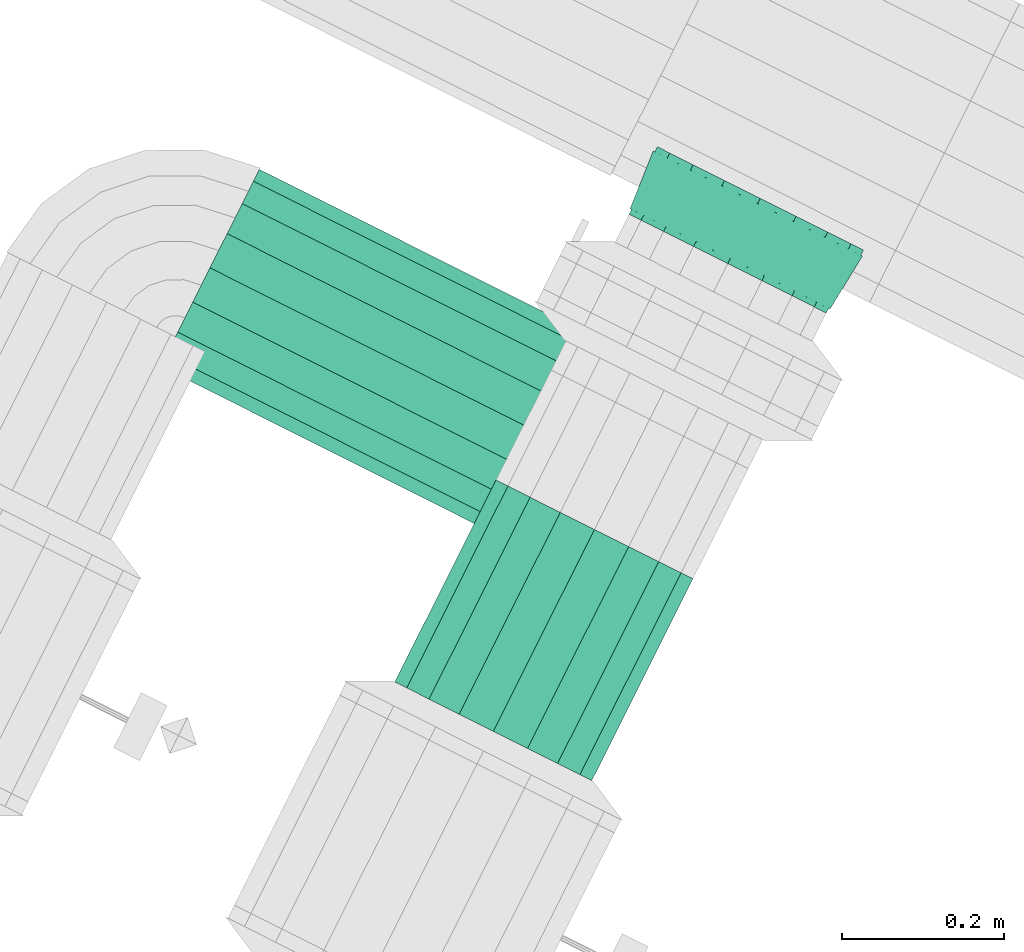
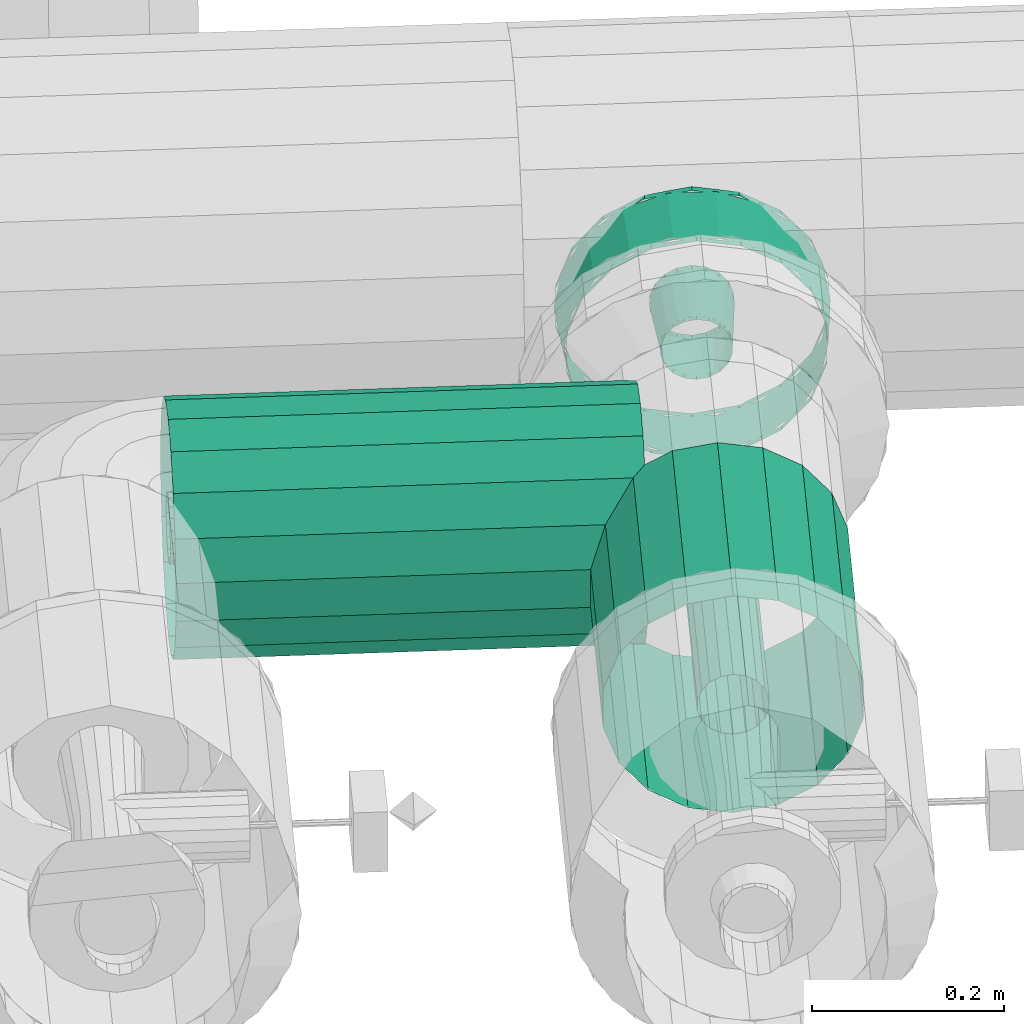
# One storey, part 43 of 152: 2 flow segments, 1 flow fitting.
"""IFC2X3 building model written with IfcOpenShell, lengths in metres."""

from ifc_helpers import new_model, si_unit, derived_unit, direction, frame, origin, place, context, subcontext, project, spatial, face_set, surface_model, source, transform, mapped, material, type_object, type_shapes, element, save


model = new_model("IFC2X3")

# Units and contexts
model_context = context("Model", 3, precision=5.2338327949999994e-05, world=origin(), true_north=direction((0.0, 1.0)))
body_context = subcontext(model_context, "Body", "Model", "MODEL_VIEW")
ifc_project = project(units=[si_unit("LENGTHUNIT", "METRE"), si_unit("AREAUNIT", "SQUARE_METRE"), si_unit("VOLUMEUNIT", "CUBIC_METRE"), si_unit("MASSUNIT", "GRAM", prefix="KILO"), si_unit("PLANEANGLEUNIT", "RADIAN"), derived_unit("THERMALTRANSMITTANCEUNIT", [(si_unit("MASSUNIT", "GRAM", prefix="KILO"), 1), (si_unit("THERMODYNAMICTEMPERATUREUNIT", "KELVIN"), -1), (si_unit("TIMEUNIT", "SECOND"), -3)])], contexts=[model_context])

# Site, building, storey
site_placement = place(None, frame((0.0, 0.0, 0.0), z_axis=(0.0, 0.0, 1.0), x_axis=(0.8939966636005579, -0.4480736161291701, 0.0)))
site = spatial("IfcSite", under=ifc_project, at=site_placement, Name="Default", CompositionType="ELEMENT")
building_placement = place(site_placement, origin())
building = spatial("IfcBuilding", under=site, at=building_placement, CompositionType="ELEMENT")
storey_placement = place(building_placement, frame((0.0, 0.0, 2.7499999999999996)))
storey = spatial("IfcBuildingStorey", under=building, at=storey_placement, Name="1. Obergeschoss", CompositionType="ELEMENT", Elevation=2.7499999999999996)

# Flow fitting
ifc_material = material(Name="IfcSurfaceStyle #1741")
distribution_element_type_1 = type_object("IfcDistributionElementType", Name="Übergangsstück 253935:Übergangsstück 253935", material=ifc_material)
shared_shape_1 = source(origin(), body_context, "Body", "SurfaceModel", [
    surface_model("IfcFaceBasedSurfaceModel", [(15.057242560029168, 7.860208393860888, 5.591190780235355), (15.072445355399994, 7.860208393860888, 5.593871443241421), (15.072445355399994, 7.853058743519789, 5.593871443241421), (15.057242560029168, 7.853058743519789, 5.5911907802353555), (15.085814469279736, 7.860208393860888, 5.601590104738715), (15.085814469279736, 7.853058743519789, 5.601590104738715), (15.095737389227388, 7.860208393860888, 5.613415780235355), (15.095737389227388, 7.853058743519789, 5.613415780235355), (15.101017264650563, 7.860208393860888, 5.6279221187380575), (15.101017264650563, 7.853058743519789, 5.6279221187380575), (15.101017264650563, 7.860208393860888, 5.643359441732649), (15.101017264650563, 7.853058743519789, 5.643359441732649), (15.095737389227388, 7.860208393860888, 5.657865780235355), (15.095737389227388, 7.853058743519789, 5.657865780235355), (15.085814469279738, 7.860208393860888, 5.669691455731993), (15.085814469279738, 7.853058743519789, 5.669691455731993), (15.072445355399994, 7.860208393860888, 5.677410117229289), (15.072445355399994, 7.853058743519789, 5.677410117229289), (15.057242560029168, 7.860208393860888, 5.680090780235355), (15.057242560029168, 7.853058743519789, 5.680090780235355), (15.042039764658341, 7.860208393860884, 5.677410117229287), (15.042039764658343, 7.853058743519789, 5.677410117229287), (15.028670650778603, 7.860208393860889, 5.669691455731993), (15.028670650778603, 7.853058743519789, 5.669691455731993), (15.018747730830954, 7.860208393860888, 5.657865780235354), (15.018747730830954, 7.853058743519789, 5.657865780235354), (15.013467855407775, 7.860208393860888, 5.643359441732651), (15.013467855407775, 7.853058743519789, 5.643359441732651), (15.013467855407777, 7.860208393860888, 5.627922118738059), (15.013467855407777, 7.853058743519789, 5.627922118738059), (15.018747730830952, 7.860208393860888, 5.613415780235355), (15.018747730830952, 7.853058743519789, 5.613415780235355), (15.028670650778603, 7.860208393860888, 5.601590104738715), (15.028670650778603, 7.853058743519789, 5.601590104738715), (15.042039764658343, 7.860208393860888, 5.5938714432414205), (15.042039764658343, 7.853058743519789, 5.5938714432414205), (15.057242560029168, 7.860208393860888, 5.491190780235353), (15.106647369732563, 7.860208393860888, 5.499902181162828), (15.106647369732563, 7.853058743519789, 5.499902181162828), (15.057242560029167, 7.853058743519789, 5.491190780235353), (15.150093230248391, 7.860208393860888, 5.524985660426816), (15.150093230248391, 7.853058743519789, 5.524985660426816), (15.182339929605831, 7.860208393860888, 5.563415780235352), (15.182339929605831, 7.853058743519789, 5.563415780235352), (15.199498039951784, 7.860208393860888, 5.610557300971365), (15.199498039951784, 7.853058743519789, 5.610557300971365), (15.199498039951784, 7.860208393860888, 5.660724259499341), (15.199498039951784, 7.853058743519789, 5.660724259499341), (15.182339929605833, 7.860208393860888, 5.707865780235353), (15.182339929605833, 7.853058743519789, 5.707865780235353), (15.150093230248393, 7.860208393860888, 5.74629590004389), (15.150093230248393, 7.853058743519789, 5.74629590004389), (15.106647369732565, 7.860208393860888, 5.771379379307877), (15.106647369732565, 7.853058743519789, 5.771379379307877), (15.057242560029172, 7.860208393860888, 5.780090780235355), (15.057242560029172, 7.853058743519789, 5.780090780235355), (15.00783775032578, 7.860208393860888, 5.77137937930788), (15.00783775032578, 7.853058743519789, 5.77137937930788), (14.96439188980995, 7.860208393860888, 5.746295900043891), (14.96439188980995, 7.853058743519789, 5.746295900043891), (14.932145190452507, 7.860208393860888, 5.707865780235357), (14.932145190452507, 7.853058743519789, 5.707865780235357), (14.914987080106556, 7.860208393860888, 5.660724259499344), (14.914987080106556, 7.853058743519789, 5.660724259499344), (14.914987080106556, 7.860208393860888, 5.610557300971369), (14.914987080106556, 7.853058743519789, 5.610557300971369), (14.932145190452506, 7.860208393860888, 5.563415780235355), (14.932145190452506, 7.853058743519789, 5.563415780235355), (14.964391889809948, 7.860208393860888, 5.524985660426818), (14.964391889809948, 7.853058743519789, 5.524985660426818), (15.007837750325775, 7.860208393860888, 5.499902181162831), (15.007837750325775, 7.853058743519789, 5.499902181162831), (15.101692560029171, 7.853058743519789, 5.635640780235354), (15.099011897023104, 7.853058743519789, 5.65084357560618), (15.092997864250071, 7.776823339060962, 5.648654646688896), (15.095292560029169, 7.776823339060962, 5.635640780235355), (15.091293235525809, 7.853058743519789, 5.664212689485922), (15.086390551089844, 7.776823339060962, 5.660098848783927), (15.07946756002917, 7.853058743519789, 5.674135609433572), (15.076267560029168, 7.776823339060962, 5.6685930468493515), (15.064961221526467, 7.853058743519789, 5.679415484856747), (15.06384987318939, 7.776823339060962, 5.67311271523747), (15.049523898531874, 7.853058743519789, 5.679415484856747), (15.050635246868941, 7.776823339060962, 5.673112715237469), (15.03501756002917, 7.853058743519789, 5.6741356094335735), (15.038217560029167, 7.776823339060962, 5.66859304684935), (15.02319188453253, 7.853058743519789, 5.664212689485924), (15.028094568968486, 7.776823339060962, 5.6600988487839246), (15.015473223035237, 7.853058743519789, 5.65084357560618), (15.021487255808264, 7.776823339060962, 5.648654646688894), (15.01279256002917, 7.853058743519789, 5.635640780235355), (15.019192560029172, 7.776823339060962, 5.635640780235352), (15.015473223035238, 7.853058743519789, 5.620437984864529), (15.021487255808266, 7.776823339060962, 5.6226269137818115), (15.023191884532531, 7.853058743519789, 5.607068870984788), (15.028094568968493, 7.776823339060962, 5.61118271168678), (15.035017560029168, 7.853058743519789, 5.597145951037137), (15.03821756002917, 7.776823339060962, 5.602688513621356), (15.049523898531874, 7.853058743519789, 5.591866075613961), (15.050635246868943, 7.776823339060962, 5.598168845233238), (15.064961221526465, 7.853058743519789, 5.591866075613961), (15.063849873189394, 7.776823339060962, 5.598168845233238), (15.07946756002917, 7.853058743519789, 5.597145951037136), (15.076267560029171, 7.776823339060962, 5.602688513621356), (15.09129323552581, 7.853058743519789, 5.607068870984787), (15.086390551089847, 7.776823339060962, 5.611182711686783), (15.0990118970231, 7.853058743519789, 5.620437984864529), (15.092997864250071, 7.776823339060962, 5.622626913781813), (15.057242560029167, 7.776823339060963, 5.597590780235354), (15.070256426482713, 7.776823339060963, 5.599885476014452), (15.070256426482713, 7.770208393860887, 5.599885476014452), (15.057242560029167, 7.770208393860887, 5.597590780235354), (15.08170062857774, 7.776823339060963, 5.606492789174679), (15.08170062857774, 7.770208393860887, 5.606492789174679), (15.090194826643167, 7.776823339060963, 5.616615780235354), (15.090194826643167, 7.770208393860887, 5.616615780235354), (15.094714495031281, 7.776823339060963, 5.6290334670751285), (15.094714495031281, 7.770208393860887, 5.6290334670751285), (15.094714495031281, 7.776823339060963, 5.642248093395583), (15.094714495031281, 7.770208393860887, 5.642248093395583), (15.090194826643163, 7.776823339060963, 5.654665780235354), (15.090194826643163, 7.770208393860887, 5.654665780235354), (15.081700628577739, 7.776823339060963, 5.664788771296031), (15.081700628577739, 7.770208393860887, 5.664788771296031), (15.070256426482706, 7.776823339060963, 5.671396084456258), (15.070256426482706, 7.770208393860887, 5.671396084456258), (15.057242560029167, 7.776823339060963, 5.673690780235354), (15.057242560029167, 7.770208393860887, 5.673690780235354), (15.044228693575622, 7.776823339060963, 5.671396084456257), (15.044228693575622, 7.770208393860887, 5.671396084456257), (15.032784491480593, 7.776823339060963, 5.66478877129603), (15.032784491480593, 7.770208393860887, 5.66478877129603), (15.024290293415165, 7.776823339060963, 5.654665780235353), (15.024290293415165, 7.770208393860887, 5.654665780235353), (15.019770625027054, 7.776823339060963, 5.64224809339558), (15.019770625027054, 7.770208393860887, 5.64224809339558), (15.019770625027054, 7.776823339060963, 5.629033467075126), (15.019770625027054, 7.770208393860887, 5.629033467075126), (15.02429029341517, 7.776823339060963, 5.616615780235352), (15.02429029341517, 7.770208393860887, 5.616615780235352), (15.032784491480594, 7.776823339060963, 5.606492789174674), (15.032784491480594, 7.770208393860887, 5.606492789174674), (15.044228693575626, 7.776823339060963, 5.5998854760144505), (15.044228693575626, 7.770208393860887, 5.5998854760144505), (15.20169256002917, 7.853058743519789, 5.635640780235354), (15.192981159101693, 7.853058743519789, 5.6850455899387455), (15.18696712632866, 7.776823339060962, 5.682856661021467), (15.195292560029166, 7.776823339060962, 5.6356407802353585), (15.167897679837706, 7.853058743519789, 5.728491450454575), (15.16299499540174, 7.776823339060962, 5.724377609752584), (15.129467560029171, 7.853058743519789, 5.760738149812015), (15.126267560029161, 7.776823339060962, 5.755195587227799), (15.08232603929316, 7.853058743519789, 5.777896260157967), (15.081214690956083, 7.776823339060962, 5.77159349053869), (15.032159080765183, 7.853058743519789, 5.777896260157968), (15.03327042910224, 7.776823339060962, 5.771593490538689), (14.985017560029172, 7.853058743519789, 5.760738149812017), (14.988217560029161, 7.776823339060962, 5.755195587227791), (14.946587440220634, 7.853058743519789, 5.7284914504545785), (14.951490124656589, 7.776823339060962, 5.724377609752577), (14.921503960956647, 7.853058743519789, 5.685045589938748), (14.927517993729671, 7.776823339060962, 5.682856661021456), (14.912792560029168, 7.853058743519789, 5.635640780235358), (14.919192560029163, 7.776823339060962, 5.635640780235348), (14.921503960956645, 7.853058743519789, 5.586235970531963), (14.927517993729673, 7.776823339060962, 5.58842489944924), (14.94658744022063, 7.853058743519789, 5.542790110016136), (14.951490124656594, 7.776823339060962, 5.5469039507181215), (14.985017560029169, 7.853058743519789, 5.510543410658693), (14.988217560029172, 7.776823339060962, 5.516085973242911), (15.032159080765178, 7.853058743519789, 5.49338530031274), (15.03327042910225, 7.776823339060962, 5.499688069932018), (15.082326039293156, 7.853058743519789, 5.49338530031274), (15.081214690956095, 7.776823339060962, 5.499688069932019), (15.129467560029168, 7.853058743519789, 5.5105434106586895), (15.126267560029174, 7.776823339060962, 5.516085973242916), (15.167897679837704, 7.853058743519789, 5.542790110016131), (15.162994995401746, 7.776823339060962, 5.54690395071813), (15.192981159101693, 7.853058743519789, 5.586235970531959), (15.186967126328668, 7.776823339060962, 5.588424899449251), (15.057242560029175, 7.776823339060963, 5.497590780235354), (15.10445844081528, 7.776823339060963, 5.505916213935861), (15.10445844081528, 7.770208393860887, 5.505916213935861), (15.057242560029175, 7.770208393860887, 5.497590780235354), (15.145979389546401, 7.776823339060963, 5.529888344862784), (15.145979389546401, 7.770208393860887, 5.529888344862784), (15.176797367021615, 7.776823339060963, 5.566615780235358), (15.176797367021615, 7.770208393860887, 5.566615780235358), (15.193195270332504, 7.776823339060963, 5.61166864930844), (15.193195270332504, 7.770208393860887, 5.61166864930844), (15.1931952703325, 7.776823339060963, 5.65961291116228), (15.1931952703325, 7.770208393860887, 5.65961291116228), (15.176797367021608, 7.776823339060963, 5.704665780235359), (15.176797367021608, 7.770208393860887, 5.704665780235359), (15.14597938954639, 7.776823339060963, 5.741393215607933), (15.14597938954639, 7.770208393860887, 5.741393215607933), (15.104458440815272, 7.776823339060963, 5.765365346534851), (15.104458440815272, 7.770208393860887, 5.765365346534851), (15.057242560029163, 7.776823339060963, 5.773690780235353), (15.057242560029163, 7.770208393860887, 5.773690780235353), (15.010026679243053, 7.776823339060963, 5.765365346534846), (15.010026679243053, 7.770208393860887, 5.765365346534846), (14.968505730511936, 7.776823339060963, 5.741393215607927), (14.968505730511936, 7.770208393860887, 5.741393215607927), (14.937687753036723, 7.776823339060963, 5.7046657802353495), (14.937687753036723, 7.770208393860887, 5.7046657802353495), (14.921289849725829, 7.776823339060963, 5.659612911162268), (14.921289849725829, 7.770208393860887, 5.659612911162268), (14.92128984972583, 7.776823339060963, 5.611668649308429), (14.92128984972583, 7.770208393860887, 5.611668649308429), (14.93768775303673, 7.776823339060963, 5.566615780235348), (14.93768775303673, 7.770208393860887, 5.566615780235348), (14.968505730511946, 7.776823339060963, 5.529888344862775), (14.968505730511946, 7.770208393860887, 5.529888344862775), (15.010026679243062, 7.776823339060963, 5.5059162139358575), (15.010026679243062, 7.770208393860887, 5.5059162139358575)], [face_set([[[0, 1, 2, 3]], [[1, 4, 5, 2]], [[4, 6, 7, 5]], [[6, 8, 9, 7]], [[8, 10, 11, 9]], [[10, 12, 13, 11]], [[12, 14, 15, 13]], [[14, 16, 17, 15]], [[16, 18, 19, 17]], [[18, 20, 21, 19]], [[20, 22, 23, 21]], [[22, 24, 25, 23]], [[24, 26, 27, 25]], [[26, 28, 29, 27]], [[28, 30, 31, 29]], [[30, 32, 33, 31]], [[32, 34, 35, 33]], [[34, 0, 3, 35]], [[36, 37, 38, 39]], [[37, 40, 41, 38]], [[40, 42, 43, 41]], [[42, 44, 45, 43]], [[44, 46, 47, 45]], [[46, 48, 49, 47]], [[48, 50, 51, 49]], [[50, 52, 53, 51]], [[52, 54, 55, 53]], [[54, 56, 57, 55]], [[56, 58, 59, 57]], [[58, 60, 61, 59]], [[60, 62, 63, 61]], [[62, 64, 65, 63]], [[64, 66, 67, 65]], [[66, 68, 69, 67]], [[68, 70, 71, 69]], [[70, 36, 39, 71]], [[72, 73, 74, 75]], [[73, 76, 77, 74]], [[76, 78, 79, 77]], [[78, 80, 81, 79]], [[80, 82, 83, 81]], [[82, 84, 85, 83]], [[84, 86, 87, 85]], [[86, 88, 89, 87]], [[88, 90, 91, 89]], [[90, 92, 93, 91]], [[92, 94, 95, 93]], [[94, 96, 97, 95]], [[96, 98, 99, 97]], [[98, 100, 101, 99]], [[100, 102, 103, 101]], [[102, 104, 105, 103]], [[104, 106, 107, 105]], [[106, 72, 75, 107]], [[108, 109, 110, 111]], [[109, 112, 113, 110]], [[112, 114, 115, 113]], [[114, 116, 117, 115]], [[116, 118, 119, 117]], [[118, 120, 121, 119]], [[120, 122, 123, 121]], [[122, 124, 125, 123]], [[124, 126, 127, 125]], [[126, 128, 129, 127]], [[128, 130, 131, 129]], [[130, 132, 133, 131]], [[132, 134, 135, 133]], [[134, 136, 137, 135]], [[136, 138, 139, 137]], [[138, 140, 141, 139]], [[140, 142, 143, 141]], [[142, 108, 111, 143]], [[144, 145, 146, 147]], [[145, 148, 149, 146]], [[148, 150, 151, 149]], [[150, 152, 153, 151]], [[152, 154, 155, 153]], [[154, 156, 157, 155]], [[156, 158, 159, 157]], [[158, 160, 161, 159]], [[160, 162, 163, 161]], [[162, 164, 165, 163]], [[164, 166, 167, 165]], [[166, 168, 169, 167]], [[168, 170, 171, 169]], [[170, 172, 173, 171]], [[172, 174, 175, 173]], [[174, 176, 177, 175]], [[176, 178, 179, 177]], [[178, 144, 147, 179]], [[180, 181, 182, 183]], [[181, 184, 185, 182]], [[184, 186, 187, 185]], [[186, 188, 189, 187]], [[188, 190, 191, 189]], [[190, 192, 193, 191]], [[192, 194, 195, 193]], [[194, 196, 197, 195]], [[196, 198, 199, 197]], [[198, 200, 201, 199]], [[200, 202, 203, 201]], [[202, 204, 205, 203]], [[204, 206, 207, 205]], [[206, 208, 209, 207]], [[208, 210, 211, 209]], [[210, 212, 213, 211]], [[212, 214, 215, 213]], [[214, 180, 183, 215]]])]),
])
type_shapes(distribution_element_type_1, [shared_shape_1])
flow_fitting_placement = place(storey_placement, frame((0.0, 0.0, -2.7499999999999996)))
element("IfcFlowFitting", 1, at=flow_fitting_placement, inside=storey, type_object=distribution_element_type_1, material=ifc_material, Name="Übergangsstück", ObjectType="Übergangsstück", context=body_context, shape_type="MappedRepresentation", body=[
    mapped(shared_shape_1, transform((0.0, 0.0, 0.0), scale=1.0)),
])

# Flow segments
distribution_element_type_2 = type_object("IfcDistributionElementType", Name="Stahlrohr nach DIN 2448 256218:Stahlrohr nach DIN 2448 256218", material=ifc_material)
shared_shape_2 = source(origin(), body_context, "Body", "SurfaceModel", [
    surface_model("IfcFaceBasedSurfaceModel", [(15.057242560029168, 7.403239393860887, 5.597590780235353), (15.070256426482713, 7.403239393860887, 5.5998854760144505), (15.070256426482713, 7.124494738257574, 5.5998854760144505), (15.057242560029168, 7.124494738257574, 5.597590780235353), (15.08170062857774, 7.403239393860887, 5.606492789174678), (15.08170062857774, 7.124494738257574, 5.606492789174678), (15.090194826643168, 7.403239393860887, 5.616615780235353), (15.090194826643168, 7.124494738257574, 5.616615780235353), (15.094714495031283, 7.403239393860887, 5.629033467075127), (15.094714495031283, 7.124494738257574, 5.629033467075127), (15.094714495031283, 7.403239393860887, 5.6422480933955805), (15.094714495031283, 7.124494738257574, 5.6422480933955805), (15.090194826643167, 7.403239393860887, 5.654665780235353), (15.090194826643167, 7.124494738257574, 5.654665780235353), (15.08170062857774, 7.403239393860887, 5.66478877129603), (15.08170062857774, 7.124494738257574, 5.66478877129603), (15.07025642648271, 7.403239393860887, 5.671396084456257), (15.07025642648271, 7.124494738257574, 5.671396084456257), (15.057242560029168, 7.403239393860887, 5.673690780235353), (15.057242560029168, 7.124494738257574, 5.673690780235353), (15.044228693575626, 7.403239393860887, 5.671396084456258), (15.044228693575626, 7.124494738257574, 5.671396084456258), (15.032784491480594, 7.403239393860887, 5.664788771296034), (15.032784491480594, 7.124494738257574, 5.664788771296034), (15.02429029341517, 7.403239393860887, 5.654665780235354), (15.02429029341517, 7.124494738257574, 5.654665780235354), (15.019770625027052, 7.403239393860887, 5.642248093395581), (15.019770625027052, 7.124494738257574, 5.642248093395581), (15.019770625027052, 7.403239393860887, 5.6290334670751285), (15.019770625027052, 7.124494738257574, 5.6290334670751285), (15.02429029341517, 7.403239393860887, 5.616615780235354), (15.02429029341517, 7.124494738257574, 5.616615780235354), (15.032784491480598, 7.403239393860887, 5.606492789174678), (15.032784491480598, 7.124494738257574, 5.606492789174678), (15.044228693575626, 7.403239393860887, 5.599885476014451), (15.044228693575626, 7.124494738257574, 5.599885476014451), (15.057242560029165, 7.403239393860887, 5.497590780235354), (15.104458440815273, 7.403239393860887, 5.505916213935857), (15.104458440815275, 7.124494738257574, 5.50591621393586), (15.057242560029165, 7.124494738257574, 5.497590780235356), (15.145979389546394, 7.403239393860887, 5.529888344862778), (15.145979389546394, 7.124494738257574, 5.529888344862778), (15.176797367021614, 7.403239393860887, 5.566615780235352), (15.176797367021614, 7.124494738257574, 5.566615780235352), (15.1931952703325, 7.403239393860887, 5.611668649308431), (15.1931952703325, 7.124494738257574, 5.611668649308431), (15.193195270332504, 7.403239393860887, 5.659612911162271), (15.193195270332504, 7.124494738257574, 5.659612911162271), (15.176797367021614, 7.403239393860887, 5.704665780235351), (15.176797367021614, 7.124494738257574, 5.704665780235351), (15.145979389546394, 7.403239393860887, 5.741393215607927), (15.145979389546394, 7.124494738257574, 5.741393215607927), (15.104458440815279, 7.403239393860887, 5.765365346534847), (15.104458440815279, 7.124494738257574, 5.765365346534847), (15.057242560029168, 7.403239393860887, 5.773690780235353), (15.057242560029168, 7.124494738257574, 5.773690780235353), (15.010026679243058, 7.403239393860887, 5.76536534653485), (15.010026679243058, 7.124494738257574, 5.76536534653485), (14.968505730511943, 7.403239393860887, 5.741393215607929), (14.968505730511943, 7.124494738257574, 5.741393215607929), (14.937687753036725, 7.403239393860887, 5.704665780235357), (14.937687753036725, 7.124494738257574, 5.704665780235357), (14.921289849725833, 7.403239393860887, 5.659612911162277), (14.921289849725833, 7.124494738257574, 5.659612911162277), (14.92128984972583, 7.403239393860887, 5.611668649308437), (14.92128984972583, 7.124494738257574, 5.611668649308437), (14.937687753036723, 7.403239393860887, 5.566615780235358), (14.937687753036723, 7.124494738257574, 5.566615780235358), (14.96850573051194, 7.403239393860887, 5.529888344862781), (14.96850573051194, 7.124494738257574, 5.529888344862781), (15.01002667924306, 7.403239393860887, 5.505916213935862), (15.01002667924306, 7.124494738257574, 5.505916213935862)], [face_set([[[0, 1, 2, 3]], [[1, 4, 5, 2]], [[4, 6, 7, 5]], [[6, 8, 9, 7]], [[8, 10, 11, 9]], [[10, 12, 13, 11]], [[12, 14, 15, 13]], [[14, 16, 17, 15]], [[16, 18, 19, 17]], [[18, 20, 21, 19]], [[20, 22, 23, 21]], [[22, 24, 25, 23]], [[24, 26, 27, 25]], [[26, 28, 29, 27]], [[28, 30, 31, 29]], [[30, 32, 33, 31]], [[32, 34, 35, 33]], [[34, 0, 3, 35]], [[36, 37, 38, 39]], [[37, 40, 41, 38]], [[40, 42, 43, 41]], [[42, 44, 45, 43]], [[44, 46, 47, 45]], [[46, 48, 49, 47]], [[48, 50, 51, 49]], [[50, 52, 53, 51]], [[52, 54, 55, 53]], [[54, 56, 57, 55]], [[56, 58, 59, 57]], [[58, 60, 61, 59]], [[60, 62, 63, 61]], [[62, 64, 65, 63]], [[64, 66, 67, 65]], [[66, 68, 69, 67]], [[68, 70, 71, 69]], [[70, 36, 39, 71]]])]),
])
type_shapes(distribution_element_type_2, [shared_shape_2])
flow_segment_1_placement = place(storey_placement, frame((0.0, 0.0, -2.7499999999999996)))
element("IfcFlowSegment", 2, at=flow_segment_1_placement, inside=storey, type_object=distribution_element_type_2, material=ifc_material, Name="Stahlrohr nach DIN 2448", ObjectType="Stahlrohr nach DIN 2448", context=body_context, shape_type="MappedRepresentation", body=[
    mapped(shared_shape_2, transform((0.0, 0.0, 0.0), scale=1.0)),
])
distribution_element_type_3 = type_object("IfcDistributionElementType", Name="Stahlrohr nach DIN 2448 258520:Stahlrohr nach DIN 2448 258520", material=ifc_material)
shared_shape_3 = source(origin(), body_context, "Body", "SurfaceModel", [
    surface_model("IfcFaceBasedSurfaceModel", [(14.98124256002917, 7.4792393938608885, 5.597590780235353), (14.98124256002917, 7.466225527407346, 5.5998854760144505), (14.488269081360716, 7.466225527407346, 5.5998854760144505), (14.488269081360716, 7.479239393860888, 5.597590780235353), (14.98124256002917, 7.454781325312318, 5.606492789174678), (14.488269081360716, 7.454781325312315, 5.606492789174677), (14.98124256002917, 7.4462871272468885, 5.616615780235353), (14.488269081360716, 7.4462871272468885, 5.616615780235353), (14.98124256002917, 7.441767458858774, 5.629033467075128), (14.488269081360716, 7.441767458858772, 5.629033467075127), (14.98124256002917, 7.4417674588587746, 5.6422480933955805), (14.488269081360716, 7.441767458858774, 5.6422480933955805), (14.98124256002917, 7.44628712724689, 5.654665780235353), (14.488269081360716, 7.4462871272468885, 5.654665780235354), (14.98124256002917, 7.454781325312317, 5.66478877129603), (14.488269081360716, 7.454781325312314, 5.66478877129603), (14.98124256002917, 7.466225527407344, 5.671396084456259), (14.488269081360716, 7.466225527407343, 5.671396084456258), (14.98124256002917, 7.479239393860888, 5.673690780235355), (14.488269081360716, 7.479239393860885, 5.673690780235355), (14.98124256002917, 7.492253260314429, 5.671396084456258), (14.488269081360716, 7.492253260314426, 5.671396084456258), (14.98124256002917, 7.503697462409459, 5.664788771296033), (14.488269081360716, 7.503697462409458, 5.664788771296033), (14.98124256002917, 7.512191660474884, 5.654665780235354), (14.488269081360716, 7.512191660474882, 5.654665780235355), (14.98124256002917, 7.5167113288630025, 5.6422480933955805), (14.488269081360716, 7.516711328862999, 5.642248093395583), (14.98124256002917, 7.516711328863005, 5.6290334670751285), (14.488269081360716, 7.5167113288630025, 5.6290334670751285), (14.98124256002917, 7.512191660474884, 5.616615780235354), (14.488269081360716, 7.512191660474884, 5.616615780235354), (14.98124256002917, 7.50369746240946, 5.606492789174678), (14.488269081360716, 7.50369746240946, 5.606492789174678), (14.98124256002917, 7.49225326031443, 5.599885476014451), (14.488269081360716, 7.492253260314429, 5.599885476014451), (14.98124256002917, 7.479239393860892, 5.497590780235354), (14.98124256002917, 7.432023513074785, 5.505916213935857), (14.488269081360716, 7.432023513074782, 5.505916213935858), (14.488269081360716, 7.47923939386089, 5.497590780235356), (14.98124256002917, 7.390502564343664, 5.529888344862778), (14.488269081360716, 7.390502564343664, 5.529888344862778), (14.98124256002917, 7.359684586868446, 5.566615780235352), (14.488269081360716, 7.359684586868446, 5.566615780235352), (14.98124256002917, 7.343286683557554, 5.611668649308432), (14.488269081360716, 7.343286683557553, 5.611668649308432), (14.98124256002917, 7.343286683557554, 5.659612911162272), (14.488269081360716, 7.343286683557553, 5.659612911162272), (14.98124256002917, 7.359684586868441, 5.704665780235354), (14.488269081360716, 7.359684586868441, 5.704665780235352), (14.98124256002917, 7.39050256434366, 5.741393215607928), (14.488269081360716, 7.390502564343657, 5.741393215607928), (14.98124256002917, 7.432023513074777, 5.765365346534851), (14.488269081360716, 7.432023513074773, 5.76536534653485), (14.98124256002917, 7.479239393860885, 5.773690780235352), (14.488269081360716, 7.479239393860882, 5.773690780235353), (14.98124256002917, 7.526455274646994, 5.76536534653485), (14.488269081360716, 7.52645527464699, 5.765365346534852), (14.98124256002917, 7.567976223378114, 5.741393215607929), (14.488269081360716, 7.567976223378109, 5.741393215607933), (14.98124256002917, 7.598794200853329, 5.704665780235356), (14.488269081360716, 7.598794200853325, 5.704665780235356), (14.98124256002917, 7.615192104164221, 5.6596129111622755), (14.488269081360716, 7.61519210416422, 5.659612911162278), (14.98124256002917, 7.615192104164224, 5.611668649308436), (14.488269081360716, 7.6151921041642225, 5.611668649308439), (14.98124256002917, 7.598794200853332, 5.566615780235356), (14.488269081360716, 7.59879420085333, 5.566615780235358), (14.98124256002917, 7.567976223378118, 5.52988834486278), (14.488269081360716, 7.567976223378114, 5.529888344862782), (14.98124256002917, 7.526455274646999, 5.50591621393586), (14.488269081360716, 7.526455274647, 5.505916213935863)], [face_set([[[0, 1, 2, 3]], [[1, 4, 5, 2]], [[4, 6, 7, 5]], [[6, 8, 9, 7]], [[8, 10, 11, 9]], [[10, 12, 13, 11]], [[12, 14, 15, 13]], [[14, 16, 17, 15]], [[16, 18, 19, 17]], [[18, 20, 21, 19]], [[20, 22, 23, 21]], [[22, 24, 25, 23]], [[24, 26, 27, 25]], [[26, 28, 29, 27]], [[28, 30, 31, 29]], [[30, 32, 33, 31]], [[32, 34, 35, 33]], [[34, 0, 3, 35]], [[36, 37, 38, 39]], [[37, 40, 41, 38]], [[40, 42, 43, 41]], [[42, 44, 45, 43]], [[44, 46, 47, 45]], [[46, 48, 49, 47]], [[48, 50, 51, 49]], [[50, 52, 53, 51]], [[52, 54, 55, 53]], [[54, 56, 57, 55]], [[56, 58, 59, 57]], [[58, 60, 61, 59]], [[60, 62, 63, 61]], [[62, 64, 65, 63]], [[64, 66, 67, 65]], [[66, 68, 69, 67]], [[68, 70, 71, 69]], [[70, 36, 39, 71]]])]),
])
type_shapes(distribution_element_type_3, [shared_shape_3])
flow_segment_2_placement = place(storey_placement, frame((0.0, 0.0, -2.7499999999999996)))
element("IfcFlowSegment", 3, at=flow_segment_2_placement, inside=storey, type_object=distribution_element_type_3, material=ifc_material, Name="Stahlrohr nach DIN 2448", ObjectType="Stahlrohr nach DIN 2448", context=body_context, shape_type="MappedRepresentation", body=[
    mapped(shared_shape_3, transform((0.0, 0.0, 0.0), scale=1.0)),
])

save(model, "model.ifc")
